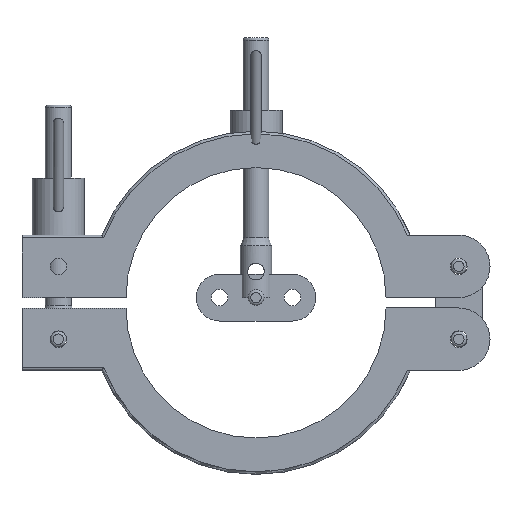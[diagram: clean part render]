
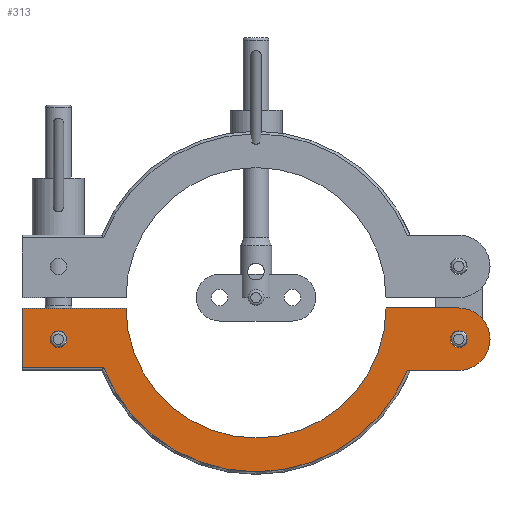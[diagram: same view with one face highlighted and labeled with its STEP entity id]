
A CAD part, left-side view. The second image highlights one B-rep face of the part: STEP entity #313.
In plain terms, the highlighted planar face has unit normal (-1, 0, 0) as drawn and (1, 0, 0) by its records, which use the part's own axes.
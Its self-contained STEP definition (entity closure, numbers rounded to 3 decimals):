
#313 = ADVANCED_FACE( '', ( #410, #411, #412 ), #413, .T. );
#410 = FACE_BOUND( '', #588, .T. );
#411 = FACE_OUTER_BOUND( '', #589, .T. );
#412 = FACE_BOUND( '', #590, .T. );
#413 = PLANE( '', #591 );
#588 = EDGE_LOOP( '', ( #897 ) );
#589 = EDGE_LOOP( '', ( #898, #899, #900, #901, #902, #903, #904, #905 ) );
#590 = EDGE_LOOP( '', ( #906 ) );
#591 = AXIS2_PLACEMENT_3D( '', #907, #908, #909 );
#897 = ORIENTED_EDGE( '', *, *, #1326, .T. );
#898 = ORIENTED_EDGE( '', *, *, #1269, .F. );
#899 = ORIENTED_EDGE( '', *, *, #1327, .T. );
#900 = ORIENTED_EDGE( '', *, *, #1272, .T. );
#901 = ORIENTED_EDGE( '', *, *, #1277, .F. );
#902 = ORIENTED_EDGE( '', *, *, #1281, .T. );
#903 = ORIENTED_EDGE( '', *, *, #1297, .T. );
#904 = ORIENTED_EDGE( '', *, *, #1328, .T. );
#905 = ORIENTED_EDGE( '', *, *, #1299, .F. );
#906 = ORIENTED_EDGE( '', *, *, #1329, .T. );
#907 = CARTESIAN_POINT( '', ( 8.25, -25., 0. ) );
#908 = DIRECTION( '', ( 1., 0., 0. ) );
#909 = DIRECTION( '', ( 0., 1., 0. ) );
#1269 = EDGE_CURVE( '', #1441, #1443, #1444, .T. );
#1272 = EDGE_CURVE( '', #1449, #1446, #1450, .T. );
#1277 = EDGE_CURVE( '', #1456, #1446, #1458, .T. );
#1281 = EDGE_CURVE( '', #1456, #1462, #1464, .T. );
#1297 = EDGE_CURVE( '', #1462, #1490, #1492, .F. );
#1299 = EDGE_CURVE( '', #1443, #1494, #1495, .F. );
#1326 = EDGE_CURVE( '', #1536, #1536, #1537, .T. );
#1327 = EDGE_CURVE( '', #1441, #1449, #1538, .F. );
#1328 = EDGE_CURVE( '', #1490, #1494, #1539, .T. );
#1329 = EDGE_CURVE( '', #1540, #1540, #1541, .T. );
#1441 = VERTEX_POINT( '', #1722 );
#1443 = VERTEX_POINT( '', #1724 );
#1444 = LINE( '', #1725, #1726 );
#1446 = VERTEX_POINT( '', #1729 );
#1449 = VERTEX_POINT( '', #1737 );
#1450 = CIRCLE( '', #1738, 31.5 );
#1456 = VERTEX_POINT( '', #1752 );
#1458 = LINE( '', #1755, #1756 );
#1462 = VERTEX_POINT( '', #1761 );
#1464 = CIRCLE( '', #1764, 6. );
#1490 = VERTEX_POINT( '', #1807 );
#1492 = LINE( '', #1810, #1811 );
#1494 = VERTEX_POINT( '', #1814 );
#1495 = LINE( '', #1815, #1816 );
#1536 = VERTEX_POINT( '', #1869 );
#1537 = CIRCLE( '', #1870, 1.6 );
#1538 = LINE( '', #1871, #1872 );
#1539 = CIRCLE( '', #1873, 25. );
#1540 = VERTEX_POINT( '', #1874 );
#1541 = CIRCLE( '', #1875, 1.6 );
#1722 = CARTESIAN_POINT( '', ( 8.25, 45., 11.5 ) );
#1724 = CARTESIAN_POINT( '', ( 8.25, 45., 0. ) );
#1725 = CARTESIAN_POINT( '', ( 8.25, 45., 12. ) );
#1726 = VECTOR( '', #2242, 1000. );
#1729 = CARTESIAN_POINT( '', ( 8.25, -29.125, 12. ) );
#1737 = CARTESIAN_POINT( '', ( 8.25, 29.326, 11.5 ) );
#1738 = AXIS2_PLACEMENT_3D( '', #2244, #2245, #2246 );
#1752 = CARTESIAN_POINT( '', ( 8.25, -39., 12. ) );
#1755 = CARTESIAN_POINT( '', ( 8.25, -45., 12. ) );
#1756 = VECTOR( '', #2252, 1000. );
#1761 = CARTESIAN_POINT( '', ( 8.25, -39., 0. ) );
#1764 = AXIS2_PLACEMENT_3D( '', #2258, #2259, #2260 );
#1807 = CARTESIAN_POINT( '', ( 8.25, -25., 0. ) );
#1810 = CARTESIAN_POINT( '', ( 8.25, -25., 0. ) );
#1811 = VECTOR( '', #2277, 1000. );
#1814 = CARTESIAN_POINT( '', ( 8.25, 25., 0. ) );
#1815 = CARTESIAN_POINT( '', ( 8.25, 25., 0. ) );
#1816 = VECTOR( '', #2279, 1000. );
#1869 = CARTESIAN_POINT( '', ( 8.25, 39.6, 6. ) );
#1870 = AXIS2_PLACEMENT_3D( '', #2334, #2335, #2336 );
#1871 = CARTESIAN_POINT( '', ( 8.25, -25., 11.5 ) );
#1872 = VECTOR( '', #2337, 1000. );
#1873 = AXIS2_PLACEMENT_3D( '', #2338, #2339, #2340 );
#1874 = CARTESIAN_POINT( '', ( 8.25, -37.4, 6. ) );
#1875 = AXIS2_PLACEMENT_3D( '', #2341, #2342, #2343 );
#2242 = DIRECTION( '', ( 0., 0., -1. ) );
#2244 = CARTESIAN_POINT( '', ( 8.25, 0., 0. ) );
#2245 = DIRECTION( '', ( 1., 0., 0. ) );
#2246 = DIRECTION( '', ( 0., 1., 0. ) );
#2252 = DIRECTION( '', ( 0., 1., 0. ) );
#2258 = CARTESIAN_POINT( '', ( 8.25, -39., 6. ) );
#2259 = DIRECTION( '', ( 1., 0., 0. ) );
#2260 = DIRECTION( '', ( 0., 1., 0. ) );
#2277 = DIRECTION( '', ( 0., -1., 0. ) );
#2279 = DIRECTION( '', ( 0., 1., 0. ) );
#2334 = CARTESIAN_POINT( '', ( 8.25, 38., 6. ) );
#2335 = DIRECTION( '', ( -1., 0., 0. ) );
#2336 = DIRECTION( '', ( 0., 1., 0. ) );
#2337 = DIRECTION( '', ( 0., 1., 0. ) );
#2338 = CARTESIAN_POINT( '', ( 8.25, 0., 0. ) );
#2339 = DIRECTION( '', ( -1., 0., 0. ) );
#2340 = DIRECTION( '', ( 0., -1., 0. ) );
#2341 = CARTESIAN_POINT( '', ( 8.25, -39., 6. ) );
#2342 = DIRECTION( '', ( -1., 0., 0. ) );
#2343 = DIRECTION( '', ( 0., 1., 0. ) );
